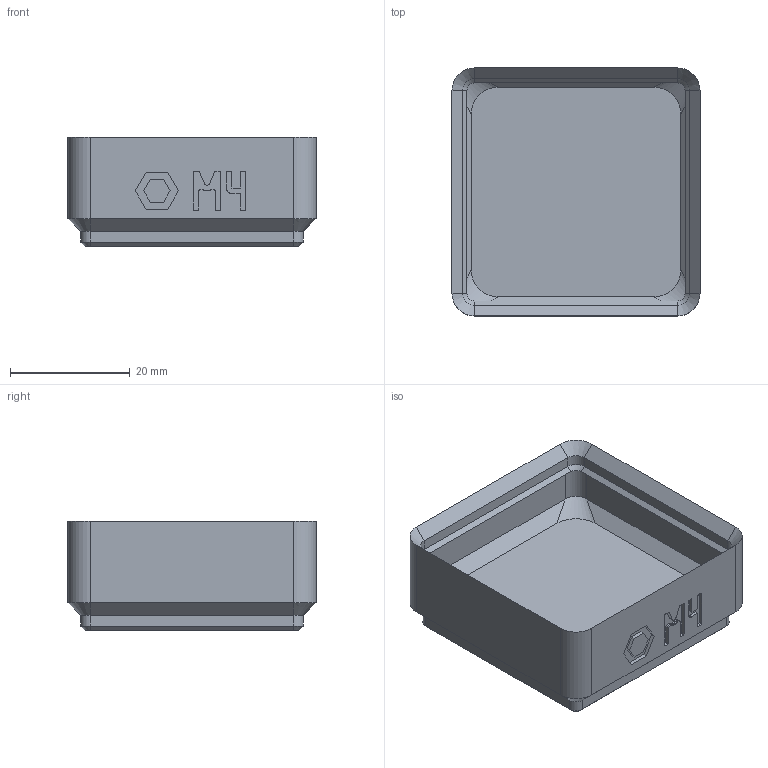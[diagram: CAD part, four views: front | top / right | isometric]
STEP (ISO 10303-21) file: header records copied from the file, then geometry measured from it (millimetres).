
FILE_DESCRIPTION(('Open CASCADE Model'),'2;1');
FILE_NAME('bin_nut_m4','2026-11-03T16:47:53',('Author'),('Open CASCADE') ,'Open CASCADE STEP processor 8.0','build123d','Unknown');
FILE_SCHEMA(('AUTOMOTIVE_DESIGN { 1 0 10303 214 1 1 1 1 }'));
Length unit declared in the file: millimetre
Products named in the file (1): bin_nut_m4
Bounding box: 41.5 x 41.5 x 18.4 mm (x, y, z)
Volume: 11001.9 mm3; surface area: 8272.1 mm2
Topology: 1 solids, 1 shells, 299 faces, 796 edges, 512 vertices
Faces by surface type: plane 251, cylinder 24, cone 16, bspline 8
Full cylindrical faces by diameter (mm): 3.2 x4, 6.5 x4
Entity records: 18936 total; most frequent: CARTESIAN_POINT 3876, DIRECTION 2456, LINE 1724, VECTOR 1724, ORIENTED_EDGE 1592, PCURVE 1592, DEFINITIONAL_REPRESENTATION 1592, EDGE_CURVE 796
